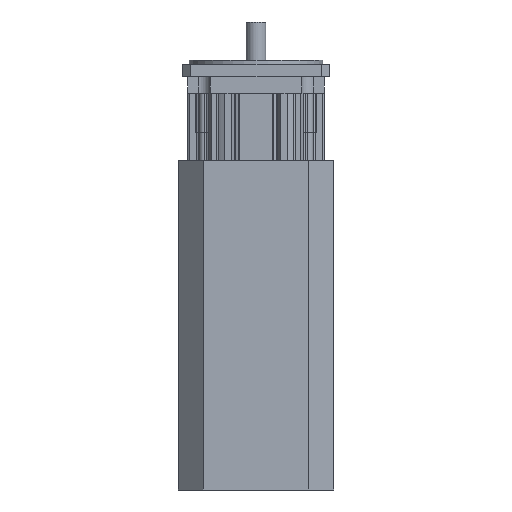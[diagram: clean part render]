
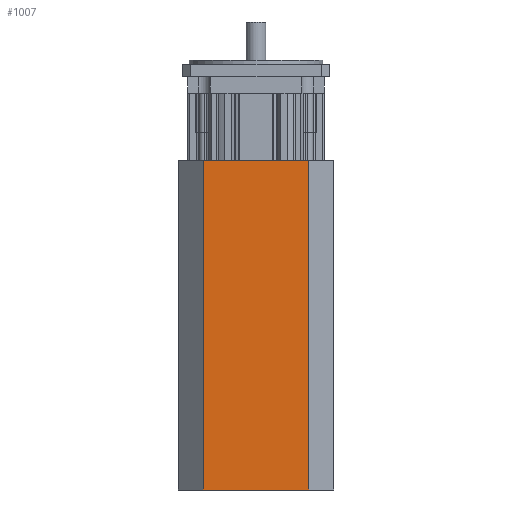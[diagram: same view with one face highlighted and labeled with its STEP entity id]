
A CAD part, front view. The second image highlights one B-rep face of the part: STEP entity #1007.
In plain terms, the highlighted planar face has unit normal (0, -1, 0).
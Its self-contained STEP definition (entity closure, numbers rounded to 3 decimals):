
#635=PLANE('',#13402);
#1007=ADVANCED_FACE('',(#2113),#635,.T.);
#2113=FACE_OUTER_BOUND('',#2781,.T.);
#2781=EDGE_LOOP('',(#6262,#6263,#6264,#6265));
#3718=LINE('',#19313,#4730);
#3719=LINE('',#19316,#4731);
#3720=LINE('',#19318,#4732);
#3721=LINE('',#19320,#4733);
#4730=VECTOR('',#15482,1.);
#4731=VECTOR('',#15483,1.);
#4732=VECTOR('',#15484,1.);
#4733=VECTOR('',#15485,1.);
#6262=ORIENTED_EDGE('',*,*,#10951,.T.);
#6263=ORIENTED_EDGE('',*,*,#10952,.T.);
#6264=ORIENTED_EDGE('',*,*,#10953,.F.);
#6265=ORIENTED_EDGE('',*,*,#10954,.T.);
#9526=VERTEX_POINT('',#19314);
#9527=VERTEX_POINT('',#19315);
#9528=VERTEX_POINT('',#19317);
#9529=VERTEX_POINT('',#19319);
#10951=EDGE_CURVE('',#9526,#9527,#3718,.T.);
#10952=EDGE_CURVE('',#9527,#9528,#3719,.T.);
#10953=EDGE_CURVE('',#9529,#9528,#3720,.T.);
#10954=EDGE_CURVE('',#9529,#9526,#3721,.T.);
#13402=AXIS2_PLACEMENT_3D('',#19321,#15486,#15487);
#15482=DIRECTION('',(1.,0.,0.));
#15483=DIRECTION('',(0.,0.,1.));
#15484=DIRECTION('',(1.,0.,0.));
#15485=DIRECTION('',(0.,0.,-1.));
#15486=DIRECTION('',(0.,-1.,0.));
#15487=DIRECTION('',(0.,0.,-1.));
#19313=CARTESIAN_POINT('',(-55.35,-55.35,-182.));
#19314=CARTESIAN_POINT('',(-37.35,-55.35,-182.));
#19315=CARTESIAN_POINT('',(37.35,-55.35,-182.));
#19316=CARTESIAN_POINT('',(37.35,-55.35,52.));
#19317=CARTESIAN_POINT('',(37.35,-55.35,52.));
#19318=CARTESIAN_POINT('',(-55.35,-55.35,52.));
#19319=CARTESIAN_POINT('',(-37.35,-55.35,52.));
#19320=CARTESIAN_POINT('',(-37.35,-55.35,52.));
#19321=CARTESIAN_POINT('',(-55.35,-55.35,52.));
